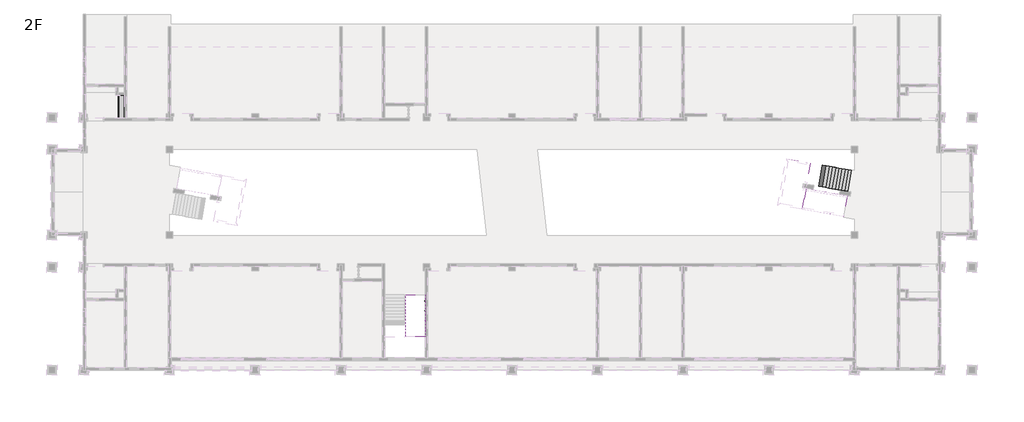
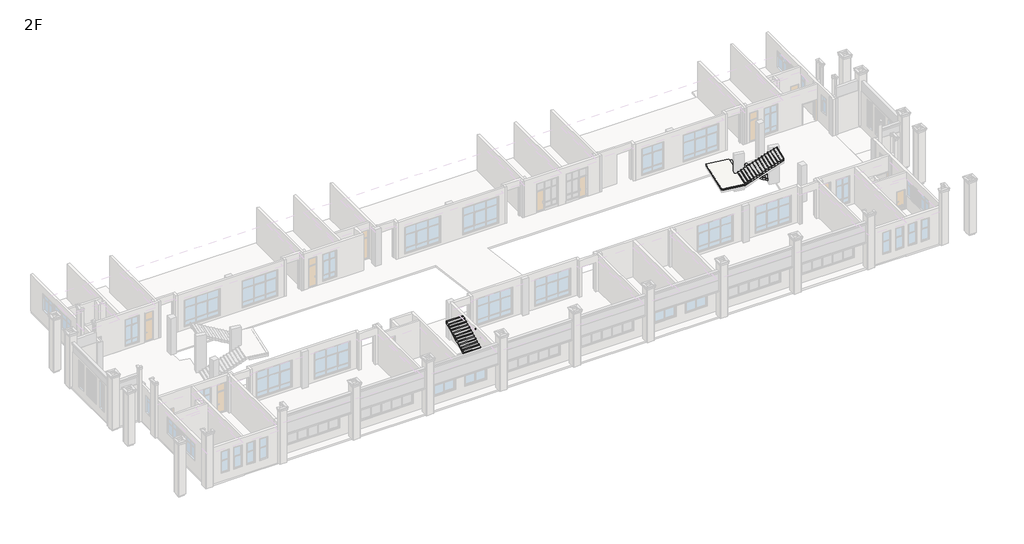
# One storey, part 12 of 16: 3 proxies, 3 stair flights, 1 flow terminal, 1 slab.
"""IFC4 building model written with IfcOpenShell, lengths in millimetres."""

from ifc_helpers import new_model, si_unit, frame, origin, place, context, project, spatial, polyline, outline, extrude, faceted_brep, transform, mapped, element, save
from components import building_element_proxy_cf76aa7a, flow_terminal_d0053564

model = new_model("IFC4")

# Units and contexts
model_context = context("Model", 3, world=origin())
ifc_project = project(units=[si_unit("LENGTHUNIT", "METRE", prefix="MILLI")], contexts=[model_context])

# Site, building, storey
site = spatial("IfcSite", under=ifc_project)
building = spatial("IfcBuilding", under=site)
storey = spatial("IfcBuildingStorey", under=building, Name="2F", Elevation=4200.0)

# Proxies
placement = place(None, origin())
building_element_proxy_shape = building_element_proxy_cf76aa7a(model_context)
element("IfcBuildingElementProxy", 1, Name="支座 - 金属 - 圆形 : 支座 - 金属 - 圆形", ObjectType="支座 - 金属 - 圆形 : 支座 - 金属 - 圆形", at=placement, inside=storey, context=model_context, shape_type="MappedRepresentation", body=[
    mapped(building_element_proxy_shape, transform((34845.0, 5543.0931494, 4541.3931073), x_axis=(0.0, -1.0, 0.0), y_axis=(1.0, 0.0, 0.0), z_axis=(0.0, 0.0, 1.0))),
])
element("IfcBuildingElementProxy", 2, Name="支座 - 金属 - 圆形 : 支座 - 金属 - 圆形", ObjectType="支座 - 金属 - 圆形 : 支座 - 金属 - 圆形", at=placement, inside=storey, context=model_context, shape_type="MappedRepresentation", body=[
    mapped(building_element_proxy_shape, transform((34845.0, 6437.5203404, 4988.6067028), x_axis=(0.0, -1.0, 0.0), y_axis=(1.0, 0.0, 0.0), z_axis=(0.0, 0.0, 1.0))),
])
element("IfcBuildingElementProxy", 3, Name="支座 - 金属 - 圆形 : 支座 - 金属 - 圆形", ObjectType="支座 - 金属 - 圆形 : 支座 - 金属 - 圆形", at=placement, inside=storey, context=model_context, shape_type="MappedRepresentation", body=[
    mapped(building_element_proxy_shape, transform((34845.0, 4648.6659584, 8294.1795118), x_axis=(0.0, -1.0, 0.0), y_axis=(1.0, 0.0, 0.0), z_axis=(0.0, 0.0, 1.0))),
])

# Flow terminal
flow_terminal_shape = flow_terminal_d0053564(model_context)
element("IfcFlowTerminal", 4, ObjectType="桌上式台盆_多个 : 标准", at=placement, inside=storey, context=model_context, shape_type="MappedRepresentation", body=[
    mapped(flow_terminal_shape, transform((6783.0000003, 24985.5853963, 4200.0), x_axis=(0.0, -1.0000000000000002, 0.0), y_axis=(1.0000000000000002, 0.0, 0.0), z_axis=(0.0, 0.0, 1.0))),
])

# Slab
element("IfcSlab", 5, ObjectType="120mm 厚度", at=placement, inside=storey, context=model_context, shape_type="SolidModel", body=[
    faceted_brep([(70534.303063, 17360.3965201, 6270.0), (70504.7588304, 17365.6059654, 6270.0), (70852.0551858, 19335.2214714, 6270.0), (70528.7150709, 19392.2350576, 6270.0), (68616.5415864, 19729.4028347, 6270.0), (67852.4896047, 15396.2487215, 6270.0), (70117.5474366, 14996.8579129, 6270.0), (70147.0916692, 14991.6484675, 6270.0), (70494.3880245, 16961.2639735, 6270.0), (70464.843792, 16966.4734189, 6270.0), (70534.303063, 17360.3965201, 6150.0), (70504.7588304, 17365.6059654, 6150.0), (70504.7588304, 17365.6059654, 6120.0), (70504.7588304, 17365.6059654, 5985.8359214), (70852.0551858, 19335.2214714, 5985.8359214), (70852.0551858, 19335.2214714, 6120.0), (70528.7150709, 19392.2350576, 6150.0), (68616.5415864, 19729.4028347, 6150.0), (67852.4896047, 15396.2487215, 6150.0), (70117.5474366, 14996.8579129, 6150.0), (70147.0916692, 14991.6484675, 6150.0), (70494.3880245, 16961.2639735, 6150.0), (70464.843792, 16966.4734189, 6150.0), (70181.4187156, 17422.6195516, 6150.0)], [[[0, 1, 2, 3, 4, 5, 6, 7, 8, 9]], [[1, 0, 10, 11]], [[2, 1, 11, 12, 13, 14, 15]], [[2, 15, 14, 16, 17, 4, 3]], [[5, 4, 17, 18]], [[6, 5, 18, 19]], [[7, 6, 19, 20]], [[8, 7, 20, 21]], [[9, 8, 21, 22]], [[0, 9, 22, 10]], [[16, 23, 11, 10, 22, 21, 20, 19, 18, 17]], [[23, 16, 14, 13]], [[11, 23, 13, 12]]]),
    extrude(outline(polyline([(70534.303063, 17360.3965201), (70464.843792, 16966.4734189), (70117.5474366, 14996.8579129), (67852.4896047, 15396.2487215), (68616.5415864, 19729.4028347), (70881.5994184, 19330.0120261), (70534.303063, 17360.3965201)])), frame((0.0, 0.0, 6270.0), z_axis=(0.0, 0.0, 1.0), x_axis=(1.0, 0.0, 0.0)), (0.0, 0.0, 1.0), 30.0),
])

# Stair flights
element("IfcStairFlight", 6, ObjectType="120mm 结构深度", at=placement, inside=storey, context=model_context, shape_type="SolidModel", body=[
    faceted_brep([(33050.0, 3130.0, 6420.0), (34900.0, 3130.0, 6420.0), (34900.0, 3158.3281573, 6420.0), (34900.0, 3430.0, 6420.0), (33050.0, 3430.0, 6420.0), (33050.0, 3158.3281573, 6420.0), (33050.0, 3430.0, 6285.8359214), (33050.0, 3158.3281573, 6150.0), (33050.0, 3130.0, 6150.0), (33050.0, 3130.0, 6270.0), (34900.0, 3130.0, 6150.0), (34900.0, 3130.0, 6270.0), (34900.0, 3158.3281573, 6150.0), (34900.0, 3430.0, 6285.8359214), (33050.0, 3730.0, 6570.0), (33050.0, 3430.0, 6570.0), (34900.0, 3430.0, 6570.0), (34900.0, 3730.0, 6570.0), (33050.0, 3730.0, 6435.8359214), (34900.0, 3730.0, 6435.8359214), (33050.0, 4030.0, 6720.0), (33050.0, 3730.0, 6720.0), (34900.0, 3730.0, 6720.0), (34900.0, 4030.0, 6720.0), (33050.0, 4030.0, 6585.8359214), (34900.0, 4030.0, 6585.8359214), (33050.0, 4330.0, 6870.0), (33050.0, 4030.0, 6870.0), (34900.0, 4030.0, 6870.0), (34900.0, 4330.0, 6870.0), (33050.0, 4330.0, 6735.8359214), (34900.0, 4330.0, 6735.8359214), (33050.0, 4630.0, 7020.0), (33050.0, 4330.0, 7020.0), (34900.0, 4330.0, 7020.0), (34900.0, 4630.0, 7020.0), (33050.0, 4630.0, 6885.8359214), (34900.0, 4630.0, 6885.8359214), (33050.0, 4930.0, 7170.0), (33050.0, 4630.0, 7170.0), (34900.0, 4630.0, 7170.0), (34900.0, 4930.0, 7170.0), (33050.0, 4930.0, 7035.8359214), (34900.0, 4930.0, 7035.8359214), (33050.0, 5230.0, 7320.0), (33050.0, 4930.0, 7320.0), (34900.0, 4930.0, 7320.0), (34900.0, 5230.0, 7320.0), (33050.0, 5230.0, 7185.8359214), (34900.0, 5230.0, 7185.8359214), (33050.0, 5530.0, 7470.0), (33050.0, 5230.0, 7470.0), (34900.0, 5230.0, 7470.0), (34900.0, 5530.0, 7470.0), (33050.0, 5530.0, 7335.8359214), (34900.0, 5530.0, 7335.8359214), (33050.0, 5830.0, 7620.0), (33050.0, 5530.0, 7620.0), (34900.0, 5530.0, 7620.0), (34900.0, 5830.0, 7620.0), (33050.0, 5830.0, 7485.8359214), (34900.0, 5830.0, 7485.8359214), (33050.0, 6130.0, 7770.0), (33050.0, 5830.0, 7770.0), (34900.0, 5830.0, 7770.0), (34900.0, 6130.0, 7770.0), (33050.0, 6130.0, 7635.8359214), (34900.0, 6130.0, 7635.8359214), (33050.0, 6430.0, 7920.0), (33050.0, 6130.0, 7920.0), (34900.0, 6130.0, 7920.0), (34900.0, 6430.0, 7920.0), (33050.0, 6430.0, 7785.8359214), (34900.0, 6430.0, 7785.8359214), (33050.0, 6730.0, 8070.0), (33050.0, 6430.0, 8070.0), (34900.0, 6430.0, 8070.0), (34900.0, 6730.0, 8070.0), (33050.0, 6730.0, 7935.8359214), (34900.0, 6730.0, 7935.8359214), (33050.0, 7030.0, 8220.0), (33050.0, 6730.0, 8220.0), (34900.0, 6730.0, 8220.0), (34900.0, 7030.0, 8220.0), (33050.0, 7030.0, 8085.8359214), (34900.0, 7030.0, 8085.8359214)], [[[0, 1, 2, 3, 4, 5]], [[4, 6, 7, 8, 9, 0, 5]], [[1, 0, 9, 8, 10, 11]], [[1, 11, 10, 12, 13, 3, 2]], [[14, 15, 16, 17]], [[15, 14, 18, 6, 4]], [[16, 15, 4, 3]], [[17, 16, 3, 13, 19]], [[20, 21, 22, 23]], [[21, 20, 24, 18, 14]], [[22, 21, 14, 17]], [[23, 22, 17, 19, 25]], [[26, 27, 28, 29]], [[27, 26, 30, 24, 20]], [[28, 27, 20, 23]], [[29, 28, 23, 25, 31]], [[32, 33, 34, 35]], [[33, 32, 36, 30, 26]], [[34, 33, 26, 29]], [[35, 34, 29, 31, 37]], [[38, 39, 40, 41]], [[39, 38, 42, 36, 32]], [[40, 39, 32, 35]], [[41, 40, 35, 37, 43]], [[44, 45, 46, 47]], [[45, 44, 48, 42, 38]], [[46, 45, 38, 41]], [[47, 46, 41, 43, 49]], [[50, 51, 52, 53]], [[51, 50, 54, 48, 44]], [[52, 51, 44, 47]], [[53, 52, 47, 49, 55]], [[56, 57, 58, 59]], [[57, 56, 60, 54, 50]], [[58, 57, 50, 53]], [[59, 58, 53, 55, 61]], [[62, 63, 64, 65]], [[63, 62, 66, 60, 56]], [[64, 63, 56, 59]], [[65, 64, 59, 61, 67]], [[68, 69, 70, 71]], [[69, 68, 72, 66, 62]], [[70, 69, 62, 65]], [[71, 70, 65, 67, 73]], [[74, 75, 76, 77]], [[75, 74, 78, 72, 68]], [[76, 75, 68, 71]], [[77, 76, 71, 73, 79]], [[80, 81, 82, 83]], [[81, 80, 84, 78, 74]], [[82, 81, 74, 77]], [[83, 82, 77, 79, 85]], [[80, 83, 85, 84]], [[12, 7, 6, 18, 24, 30, 36, 42, 48, 54, 60, 66, 72, 78, 84, 85, 79, 73, 67, 61, 55, 49, 43, 37, 31, 25, 19, 13]], [[7, 12, 10, 8]]]),
    extrude(outline(polyline([(34900.0, 3130.0), (34900.0, 3100.0), (33050.0, 3100.0), (33050.0, 3130.0), (34900.0, 3130.0)])), frame((0.0, 0.0, 6270.0), z_axis=(0.0, 0.0, 1.0), x_axis=(1.0, 0.0, 0.0)), (0.0, 0.0, 1.0), 150.0),
    extrude(outline(polyline([(33050.0, 3400.0), (34900.0, 3400.0), (34900.0, 3100.0), (33050.0, 3100.0), (33050.0, 3400.0)])), frame((0.0, 0.0, 6420.0), z_axis=(0.0, 0.0, 1.0), x_axis=(1.0, 0.0, 0.0)), (0.0, 0.0, 1.0), 30.0),
    extrude(outline(polyline([(34900.0, 3430.0), (34900.0, 3400.0), (33050.0, 3400.0), (33050.0, 3430.0), (34900.0, 3430.0)])), frame((0.0, 0.0, 6420.0), z_axis=(0.0, 0.0, 1.0), x_axis=(1.0, 0.0, 0.0)), (0.0, 0.0, 1.0), 150.0),
    extrude(outline(polyline([(33050.0, 3700.0), (34900.0, 3700.0), (34900.0, 3400.0), (33050.0, 3400.0), (33050.0, 3700.0)])), frame((0.0, 0.0, 6570.0), z_axis=(0.0, 0.0, 1.0), x_axis=(1.0, 0.0, 0.0)), (0.0, 0.0, 1.0), 30.0),
    extrude(outline(polyline([(34900.0, 3730.0), (34900.0, 3700.0), (33050.0, 3700.0), (33050.0, 3730.0), (34900.0, 3730.0)])), frame((0.0, 0.0, 6570.0), z_axis=(0.0, 0.0, 1.0), x_axis=(1.0, 0.0, 0.0)), (0.0, 0.0, 1.0), 150.0),
    extrude(outline(polyline([(33050.0, 4000.0), (34900.0, 4000.0), (34900.0, 3700.0), (33050.0, 3700.0), (33050.0, 4000.0)])), frame((0.0, 0.0, 6720.0), z_axis=(0.0, 0.0, 1.0), x_axis=(1.0, 0.0, 0.0)), (0.0, 0.0, 1.0), 30.0),
    extrude(outline(polyline([(34900.0, 4030.0), (34900.0, 4000.0), (33050.0, 4000.0), (33050.0, 4030.0), (34900.0, 4030.0)])), frame((0.0, 0.0, 6720.0), z_axis=(0.0, 0.0, 1.0), x_axis=(1.0, 0.0, 0.0)), (0.0, 0.0, 1.0), 150.0),
    extrude(outline(polyline([(33050.0, 4300.0), (34900.0, 4300.0), (34900.0, 4000.0), (33050.0, 4000.0), (33050.0, 4300.0)])), frame((0.0, 0.0, 6870.0), z_axis=(0.0, 0.0, 1.0), x_axis=(1.0, 0.0, 0.0)), (0.0, 0.0, 1.0), 30.0),
    extrude(outline(polyline([(34900.0, 4330.0), (34900.0, 4300.0), (33050.0, 4300.0), (33050.0, 4330.0), (34900.0, 4330.0)])), frame((0.0, 0.0, 6870.0), z_axis=(0.0, 0.0, 1.0), x_axis=(1.0, 0.0, 0.0)), (0.0, 0.0, 1.0), 150.0),
    extrude(outline(polyline([(33050.0, 4600.0), (34900.0, 4600.0), (34900.0, 4300.0), (33050.0, 4300.0), (33050.0, 4600.0)])), frame((0.0, 0.0, 7020.0), z_axis=(0.0, 0.0, 1.0), x_axis=(1.0, 0.0, 0.0)), (0.0, 0.0, 1.0), 30.0),
    extrude(outline(polyline([(34900.0, 4630.0), (34900.0, 4600.0), (33050.0, 4600.0), (33050.0, 4630.0), (34900.0, 4630.0)])), frame((0.0, 0.0, 7020.0), z_axis=(0.0, 0.0, 1.0), x_axis=(1.0, 0.0, 0.0)), (0.0, 0.0, 1.0), 150.0),
    extrude(outline(polyline([(33050.0, 4900.0), (34900.0, 4900.0), (34900.0, 4600.0), (33050.0, 4600.0), (33050.0, 4900.0)])), frame((0.0, 0.0, 7170.0), z_axis=(0.0, 0.0, 1.0), x_axis=(1.0, 0.0, 0.0)), (0.0, 0.0, 1.0), 30.0),
    extrude(outline(polyline([(34900.0, 4930.0), (34900.0, 4900.0), (33050.0, 4900.0), (33050.0, 4930.0), (34900.0, 4930.0)])), frame((0.0, 0.0, 7170.0), z_axis=(0.0, 0.0, 1.0), x_axis=(1.0, 0.0, 0.0)), (0.0, 0.0, 1.0), 150.0),
    extrude(outline(polyline([(33050.0, 5200.0), (34900.0, 5200.0), (34900.0, 4900.0), (33050.0, 4900.0), (33050.0, 5200.0)])), frame((0.0, 0.0, 7320.0), z_axis=(0.0, 0.0, 1.0), x_axis=(1.0, 0.0, 0.0)), (0.0, 0.0, 1.0), 30.0),
    extrude(outline(polyline([(34900.0, 5230.0), (34900.0, 5200.0), (33050.0, 5200.0), (33050.0, 5230.0), (34900.0, 5230.0)])), frame((0.0, 0.0, 7320.0), z_axis=(0.0, 0.0, 1.0), x_axis=(1.0, 0.0, 0.0)), (0.0, 0.0, 1.0), 150.0),
    extrude(outline(polyline([(33050.0, 5500.0), (34900.0, 5500.0), (34900.0, 5200.0), (33050.0, 5200.0), (33050.0, 5500.0)])), frame((0.0, 0.0, 7470.0), z_axis=(0.0, 0.0, 1.0), x_axis=(1.0, 0.0, 0.0)), (0.0, 0.0, 1.0), 30.0),
    extrude(outline(polyline([(34900.0, 5530.0), (34900.0, 5500.0), (33050.0, 5500.0), (33050.0, 5530.0), (34900.0, 5530.0)])), frame((0.0, 0.0, 7470.0), z_axis=(0.0, 0.0, 1.0), x_axis=(1.0, 0.0, 0.0)), (0.0, 0.0, 1.0), 150.0),
    extrude(outline(polyline([(33050.0, 5800.0), (34900.0, 5800.0), (34900.0, 5500.0), (33050.0, 5500.0), (33050.0, 5800.0)])), frame((0.0, 0.0, 7620.0), z_axis=(0.0, 0.0, 1.0), x_axis=(1.0, 0.0, 0.0)), (0.0, 0.0, 1.0), 30.0),
    extrude(outline(polyline([(34900.0, 5830.0), (34900.0, 5800.0), (33050.0, 5800.0), (33050.0, 5830.0), (34900.0, 5830.0)])), frame((0.0, 0.0, 7620.0), z_axis=(0.0, 0.0, 1.0), x_axis=(1.0, 0.0, 0.0)), (0.0, 0.0, 1.0), 150.0),
    extrude(outline(polyline([(33050.0, 6100.0), (34900.0, 6100.0), (34900.0, 5800.0), (33050.0, 5800.0), (33050.0, 6100.0)])), frame((0.0, 0.0, 7770.0), z_axis=(0.0, 0.0, 1.0), x_axis=(1.0, 0.0, 0.0)), (0.0, 0.0, 1.0), 30.0),
    extrude(outline(polyline([(34900.0, 6130.0), (34900.0, 6100.0), (33050.0, 6100.0), (33050.0, 6130.0), (34900.0, 6130.0)])), frame((0.0, 0.0, 7770.0), z_axis=(0.0, 0.0, 1.0), x_axis=(1.0, 0.0, 0.0)), (0.0, 0.0, 1.0), 150.0),
    extrude(outline(polyline([(33050.0, 6400.0), (34900.0, 6400.0), (34900.0, 6100.0), (33050.0, 6100.0), (33050.0, 6400.0)])), frame((0.0, 0.0, 7920.0), z_axis=(0.0, 0.0, 1.0), x_axis=(1.0, 0.0, 0.0)), (0.0, 0.0, 1.0), 30.0),
    extrude(outline(polyline([(34900.0, 6430.0), (34900.0, 6400.0), (33050.0, 6400.0), (33050.0, 6430.0), (34900.0, 6430.0)])), frame((0.0, 0.0, 7920.0), z_axis=(0.0, 0.0, 1.0), x_axis=(1.0, 0.0, 0.0)), (0.0, 0.0, 1.0), 150.0),
    extrude(outline(polyline([(33050.0, 6700.0), (34900.0, 6700.0), (34900.0, 6400.0), (33050.0, 6400.0), (33050.0, 6700.0)])), frame((0.0, 0.0, 8070.0), z_axis=(0.0, 0.0, 1.0), x_axis=(1.0, 0.0, 0.0)), (0.0, 0.0, 1.0), 30.0),
    extrude(outline(polyline([(34900.0, 6730.0), (34900.0, 6700.0), (33050.0, 6700.0), (33050.0, 6730.0), (34900.0, 6730.0)])), frame((0.0, 0.0, 8070.0), z_axis=(0.0, 0.0, 1.0), x_axis=(1.0, 0.0, 0.0)), (0.0, 0.0, 1.0), 150.0),
    extrude(outline(polyline([(34900.0, 7030.0), (34900.0, 7000.0), (33050.0, 7000.0), (33050.0, 7030.0), (34900.0, 7030.0)])), frame((0.0, 0.0, 8220.0), z_axis=(0.0, 0.0, 1.0), x_axis=(1.0, 0.0, 0.0)), (0.0, 0.0, 1.0), 150.0),
    extrude(outline(polyline([(33050.0, 7000.0), (34900.0, 7000.0), (34900.0, 6700.0), (33050.0, 6700.0), (33050.0, 7000.0)])), frame((0.0, 0.0, 8220.0), z_axis=(0.0, 0.0, 1.0), x_axis=(1.0, 0.0, 0.0)), (0.0, 0.0, 1.0), 30.0),
])
element("IfcStairFlight", 7, ObjectType="120mm 结构深度", at=placement, inside=storey, context=model_context, shape_type="SolidModel", body=[
    faceted_brep([(74050.0667413, 16740.4725258, 4320.0), (74345.5090672, 16688.3780725, 4320.0), (74692.8054225, 18657.9935785, 4320.0), (74397.3630966, 18710.0880318, 4320.0), (74050.0667413, 16740.4725258, 4200.0), (74345.5090672, 16688.3780725, 4200.0), (74692.8054225, 18657.9935785, 4200.0), (74397.3630966, 18710.0880318, 4200.0), (73754.6244154, 16792.5669791, 4470.0), (74050.0667413, 16740.4725258, 4470.0), (74397.3630966, 18710.0880318, 4470.0), (74101.9207707, 18762.1824851, 4470.0), (73754.6244154, 16792.5669791, 4335.8359214), (74022.1689523, 16745.3916587, 4200.0), (74369.4653077, 18715.0071647, 4200.0), (74101.9207707, 18762.1824851, 4335.8359214), (73459.1820895, 16844.6614324, 4620.0), (73754.6244154, 16792.5669791, 4620.0), (74101.9207707, 18762.1824851, 4620.0), (73806.4784448, 18814.2769384, 4620.0), (73459.1820895, 16844.6614324, 4485.8359214), (73806.4784448, 18814.2769384, 4485.8359214), (73163.7397636, 16896.7558857, 4770.0), (73459.1820895, 16844.6614324, 4770.0), (73806.4784448, 18814.2769384, 4770.0), (73511.0361189, 18866.3713917, 4770.0), (73163.7397636, 16896.7558857, 4635.8359214), (73511.0361189, 18866.3713917, 4635.8359214), (72868.2974377, 16948.850339, 4920.0), (73163.7397636, 16896.7558857, 4920.0), (73511.0361189, 18866.3713917, 4920.0), (73215.593793, 18918.465845, 4920.0), (72868.2974377, 16948.850339, 4785.8359214), (73215.593793, 18918.465845, 4785.8359214), (72572.8551118, 17000.9447923, 5070.0), (72868.2974377, 16948.850339, 5070.0), (73215.593793, 18918.465845, 5070.0), (72920.1514671, 18970.5602983, 5070.0), (72572.8551118, 17000.9447923, 4935.8359214), (72920.1514671, 18970.5602983, 4935.8359214), (72277.4127859, 17053.0392456, 5220.0), (72572.8551118, 17000.9447923, 5220.0), (72920.1514671, 18970.5602983, 5220.0), (72624.7091412, 19022.6547516, 5220.0), (72277.4127859, 17053.0392456, 5085.8359214), (72624.7091412, 19022.6547516, 5085.8359214), (71981.9704599, 17105.1336989, 5370.0), (72277.4127859, 17053.0392456, 5370.0), (72624.7091412, 19022.6547516, 5370.0), (72329.2668153, 19074.7492049, 5370.0), (71981.9704599, 17105.1336989, 5235.8359214), (72329.2668153, 19074.7492049, 5235.8359214), (71686.528134, 17157.2281522, 5520.0), (71981.9704599, 17105.1336989, 5520.0), (72329.2668153, 19074.7492049, 5520.0), (72033.8244894, 19126.8436582, 5520.0), (71686.528134, 17157.2281522, 5385.8359214), (72033.8244894, 19126.8436582, 5385.8359214), (71391.0858081, 17209.3226055, 5670.0), (71686.528134, 17157.2281522, 5670.0), (72033.8244894, 19126.8436582, 5670.0), (71738.3821635, 19178.9381115, 5670.0), (71391.0858081, 17209.3226055, 5535.8359214), (71738.3821635, 19178.9381115, 5535.8359214), (71095.6434822, 17261.4170588, 5820.0), (71391.0858081, 17209.3226055, 5820.0), (71738.3821635, 19178.9381115, 5820.0), (71442.9398376, 19231.0325648, 5820.0), (71095.6434822, 17261.4170588, 5685.8359214), (71442.9398376, 19231.0325648, 5685.8359214), (70800.2011563, 17313.5115121, 5970.0), (71095.6434822, 17261.4170588, 5970.0), (71442.9398376, 19231.0325648, 5970.0), (71147.4975117, 19283.1270181, 5970.0), (70800.2011563, 17313.5115121, 5835.8359214), (71147.4975117, 19283.1270181, 5835.8359214), (70504.7588304, 17365.6059654, 6120.0), (70800.2011563, 17313.5115121, 6120.0), (71147.4975117, 19283.1270181, 6120.0), (70881.5994184, 19330.0120261, 6120.0), (70852.0551858, 19335.2214714, 6120.0), (70504.7588304, 17365.6059654, 5985.8359214), (70881.5994184, 19330.0120261, 5970.8359214), (70852.0551858, 19335.2214714, 5985.8359214)], [[[0, 1, 2, 3]], [[1, 0, 4, 5]], [[2, 1, 5, 6]], [[3, 2, 6, 7]], [[8, 9, 10, 11]], [[4, 0, 9, 8, 12, 13]], [[0, 3, 10, 9]], [[3, 7, 14, 15, 11, 10]], [[16, 17, 18, 19]], [[17, 16, 20, 12, 8]], [[8, 11, 18, 17]], [[19, 18, 11, 15, 21]], [[22, 23, 24, 25]], [[23, 22, 26, 20, 16]], [[16, 19, 24, 23]], [[25, 24, 19, 21, 27]], [[28, 29, 30, 31]], [[29, 28, 32, 26, 22]], [[22, 25, 30, 29]], [[31, 30, 25, 27, 33]], [[34, 35, 36, 37]], [[35, 34, 38, 32, 28]], [[28, 31, 36, 35]], [[37, 36, 31, 33, 39]], [[40, 41, 42, 43]], [[41, 40, 44, 38, 34]], [[34, 37, 42, 41]], [[43, 42, 37, 39, 45]], [[46, 47, 48, 49]], [[47, 46, 50, 44, 40]], [[40, 43, 48, 47]], [[49, 48, 43, 45, 51]], [[52, 53, 54, 55]], [[53, 52, 56, 50, 46]], [[46, 49, 54, 53]], [[55, 54, 49, 51, 57]], [[58, 59, 60, 61]], [[59, 58, 62, 56, 52]], [[52, 55, 60, 59]], [[61, 60, 55, 57, 63]], [[64, 65, 66, 67]], [[65, 64, 68, 62, 58]], [[58, 61, 66, 65]], [[67, 66, 61, 63, 69]], [[70, 71, 72, 73]], [[71, 70, 74, 68, 64]], [[64, 67, 72, 71]], [[73, 72, 67, 69, 75]], [[76, 77, 78, 79, 80]], [[77, 76, 81, 74, 70]], [[70, 73, 78, 77]], [[78, 73, 75, 82, 83, 80, 79]], [[76, 80, 83, 81]], [[5, 4, 13, 14, 7, 6]], [[14, 13, 12, 20, 26, 32, 38, 44, 50, 56, 62, 68, 74, 81, 83, 82, 75, 69, 63, 57, 51, 45, 39, 33, 27, 21, 15]]]),
    extrude(outline(polyline([(74692.8054225, 18657.9935785), (74722.3496551, 18652.7841332), (74375.0532998, 16683.1686272), (74345.5090672, 16688.3780725), (74692.8054225, 18657.9935785)])), frame((0.0, 0.0, 4200.0), z_axis=(0.0, 0.0, 1.0), x_axis=(1.0, 0.0, 0.0)), (0.0, 0.0, 1.0), 120.0),
    extrude(outline(polyline([(74079.6109739, 16735.2630805), (74426.9073292, 18704.8785865), (74722.3496551, 18652.7841332), (74375.0532998, 16683.1686272), (74079.6109739, 16735.2630805)])), frame((0.0, 0.0, 4320.0), z_axis=(0.0, 0.0, 1.0), x_axis=(1.0, 0.0, 0.0)), (0.0, 0.0, 1.0), 30.0),
    extrude(outline(polyline([(74397.3630966, 18710.0880318), (74426.9073292, 18704.8785865), (74079.6109739, 16735.2630805), (74050.0667413, 16740.4725258), (74397.3630966, 18710.0880318)])), frame((0.0, 0.0, 4320.0), z_axis=(0.0, 0.0, 1.0), x_axis=(1.0, 0.0, 0.0)), (0.0, 0.0, 1.0), 150.0),
    extrude(outline(polyline([(73784.168648, 16787.3575338), (74131.4650033, 18756.9730398), (74426.9073292, 18704.8785865), (74079.6109739, 16735.2630805), (73784.168648, 16787.3575338)])), frame((0.0, 0.0, 4470.0), z_axis=(0.0, 0.0, 1.0), x_axis=(1.0, 0.0, 0.0)), (0.0, 0.0, 1.0), 30.0),
    extrude(outline(polyline([(74101.9207707, 18762.1824851), (74131.4650033, 18756.9730398), (73784.168648, 16787.3575338), (73754.6244154, 16792.5669791), (74101.9207707, 18762.1824851)])), frame((0.0, 0.0, 4470.0), z_axis=(0.0, 0.0, 1.0), x_axis=(1.0, 0.0, 0.0)), (0.0, 0.0, 1.0), 150.0),
    extrude(outline(polyline([(73488.7263221, 16839.4519871), (73836.0226774, 18809.0674931), (74131.4650033, 18756.9730398), (73784.168648, 16787.3575338), (73488.7263221, 16839.4519871)])), frame((0.0, 0.0, 4620.0), z_axis=(0.0, 0.0, 1.0), x_axis=(1.0, 0.0, 0.0)), (0.0, 0.0, 1.0), 30.0),
    extrude(outline(polyline([(73806.4784448, 18814.2769384), (73836.0226774, 18809.0674931), (73488.7263221, 16839.4519871), (73459.1820895, 16844.6614324), (73806.4784448, 18814.2769384)])), frame((0.0, 0.0, 4620.0), z_axis=(0.0, 0.0, 1.0), x_axis=(1.0, 0.0, 0.0)), (0.0, 0.0, 1.0), 150.0),
    extrude(outline(polyline([(73193.2839962, 16891.5464404), (73540.5803515, 18861.1619464), (73836.0226774, 18809.0674931), (73488.7263221, 16839.4519871), (73193.2839962, 16891.5464404)])), frame((0.0, 0.0, 4770.0), z_axis=(0.0, 0.0, 1.0), x_axis=(1.0, 0.0, 0.0)), (0.0, 0.0, 1.0), 30.0),
    extrude(outline(polyline([(73511.0361189, 18866.3713917), (73540.5803515, 18861.1619464), (73193.2839962, 16891.5464404), (73163.7397636, 16896.7558857), (73511.0361189, 18866.3713917)])), frame((0.0, 0.0, 4770.0), z_axis=(0.0, 0.0, 1.0), x_axis=(1.0, 0.0, 0.0)), (0.0, 0.0, 1.0), 150.0),
    extrude(outline(polyline([(72897.8416702, 16943.6408937), (73245.1380256, 18913.2563997), (73540.5803515, 18861.1619464), (73193.2839962, 16891.5464404), (72897.8416702, 16943.6408937)])), frame((0.0, 0.0, 4920.0), z_axis=(0.0, 0.0, 1.0), x_axis=(1.0, 0.0, 0.0)), (0.0, 0.0, 1.0), 30.0),
    extrude(outline(polyline([(73215.593793, 18918.465845), (73245.1380256, 18913.2563997), (72897.8416702, 16943.6408937), (72868.2974377, 16948.850339), (73215.593793, 18918.465845)])), frame((0.0, 0.0, 4920.0), z_axis=(0.0, 0.0, 1.0), x_axis=(1.0, 0.0, 0.0)), (0.0, 0.0, 1.0), 150.0),
    extrude(outline(polyline([(72602.3993443, 16995.735347), (72949.6956997, 18965.350853), (73245.1380256, 18913.2563997), (72897.8416702, 16943.6408937), (72602.3993443, 16995.735347)])), frame((0.0, 0.0, 5070.0), z_axis=(0.0, 0.0, 1.0), x_axis=(1.0, 0.0, 0.0)), (0.0, 0.0, 1.0), 30.0),
    extrude(outline(polyline([(72920.1514671, 18970.5602983), (72949.6956997, 18965.350853), (72602.3993443, 16995.735347), (72572.8551118, 17000.9447923), (72920.1514671, 18970.5602983)])), frame((0.0, 0.0, 5070.0), z_axis=(0.0, 0.0, 1.0), x_axis=(1.0, 0.0, 0.0)), (0.0, 0.0, 1.0), 150.0),
    extrude(outline(polyline([(72306.9570184, 17047.8298003), (72654.2533738, 19017.4453063), (72949.6956997, 18965.350853), (72602.3993443, 16995.735347), (72306.9570184, 17047.8298003)])), frame((0.0, 0.0, 5220.0), z_axis=(0.0, 0.0, 1.0), x_axis=(1.0, 0.0, 0.0)), (0.0, 0.0, 1.0), 30.0),
    extrude(outline(polyline([(72624.7091412, 19022.6547516), (72654.2533738, 19017.4453063), (72306.9570184, 17047.8298003), (72277.4127859, 17053.0392456), (72624.7091412, 19022.6547516)])), frame((0.0, 0.0, 5220.0), z_axis=(0.0, 0.0, 1.0), x_axis=(1.0, 0.0, 0.0)), (0.0, 0.0, 1.0), 150.0),
    extrude(outline(polyline([(72011.5146925, 17099.9242536), (72358.8110479, 19069.5397596), (72654.2533738, 19017.4453063), (72306.9570184, 17047.8298003), (72011.5146925, 17099.9242536)])), frame((0.0, 0.0, 5370.0), z_axis=(0.0, 0.0, 1.0), x_axis=(1.0, 0.0, 0.0)), (0.0, 0.0, 1.0), 30.0),
    extrude(outline(polyline([(72329.2668153, 19074.7492049), (72358.8110479, 19069.5397596), (72011.5146925, 17099.9242536), (71981.9704599, 17105.1336989), (72329.2668153, 19074.7492049)])), frame((0.0, 0.0, 5370.0), z_axis=(0.0, 0.0, 1.0), x_axis=(1.0, 0.0, 0.0)), (0.0, 0.0, 1.0), 150.0),
    extrude(outline(polyline([(71716.0723666, 17152.0187069), (72063.368722, 19121.6342129), (72358.8110479, 19069.5397596), (72011.5146925, 17099.9242536), (71716.0723666, 17152.0187069)])), frame((0.0, 0.0, 5520.0), z_axis=(0.0, 0.0, 1.0), x_axis=(1.0, 0.0, 0.0)), (0.0, 0.0, 1.0), 30.0),
    extrude(outline(polyline([(72033.8244894, 19126.8436582), (72063.368722, 19121.6342129), (71716.0723666, 17152.0187069), (71686.528134, 17157.2281522), (72033.8244894, 19126.8436582)])), frame((0.0, 0.0, 5520.0), z_axis=(0.0, 0.0, 1.0), x_axis=(1.0, 0.0, 0.0)), (0.0, 0.0, 1.0), 150.0),
    extrude(outline(polyline([(71420.6300407, 17204.1131602), (71767.9263961, 19173.7286662), (72063.368722, 19121.6342129), (71716.0723666, 17152.0187069), (71420.6300407, 17204.1131602)])), frame((0.0, 0.0, 5670.0), z_axis=(0.0, 0.0, 1.0), x_axis=(1.0, 0.0, 0.0)), (0.0, 0.0, 1.0), 30.0),
    extrude(outline(polyline([(71738.3821635, 19178.9381115), (71767.9263961, 19173.7286662), (71420.6300407, 17204.1131602), (71391.0858081, 17209.3226055), (71738.3821635, 19178.9381115)])), frame((0.0, 0.0, 5670.0), z_axis=(0.0, 0.0, 1.0), x_axis=(1.0, 0.0, 0.0)), (0.0, 0.0, 1.0), 150.0),
    extrude(outline(polyline([(71125.1877148, 17256.2076135), (71472.4840702, 19225.8231195), (71767.9263961, 19173.7286662), (71420.6300407, 17204.1131602), (71125.1877148, 17256.2076135)])), frame((0.0, 0.0, 5820.0), z_axis=(0.0, 0.0, 1.0), x_axis=(1.0, 0.0, 0.0)), (0.0, 0.0, 1.0), 30.0),
    extrude(outline(polyline([(71442.9398376, 19231.0325648), (71472.4840702, 19225.8231195), (71125.1877148, 17256.2076135), (71095.6434822, 17261.4170588), (71442.9398376, 19231.0325648)])), frame((0.0, 0.0, 5820.0), z_axis=(0.0, 0.0, 1.0), x_axis=(1.0, 0.0, 0.0)), (0.0, 0.0, 1.0), 150.0),
    extrude(outline(polyline([(70829.7453889, 17308.3020668), (71177.0417443, 19277.9175728), (71472.4840702, 19225.8231195), (71125.1877148, 17256.2076135), (70829.7453889, 17308.3020668)])), frame((0.0, 0.0, 5970.0), z_axis=(0.0, 0.0, 1.0), x_axis=(1.0, 0.0, 0.0)), (0.0, 0.0, 1.0), 30.0),
    extrude(outline(polyline([(71147.4975117, 19283.1270181), (71177.0417443, 19277.9175728), (70829.7453889, 17308.3020668), (70800.2011563, 17313.5115121), (71147.4975117, 19283.1270181)])), frame((0.0, 0.0, 5970.0), z_axis=(0.0, 0.0, 1.0), x_axis=(1.0, 0.0, 0.0)), (0.0, 0.0, 1.0), 150.0),
    extrude(outline(polyline([(70852.0551858, 19335.2214714), (70881.5994184, 19330.0120261), (70534.303063, 17360.3965201), (70504.7588304, 17365.6059654), (70852.0551858, 19335.2214714)])), frame((0.0, 0.0, 6120.0), z_axis=(0.0, 0.0, 1.0), x_axis=(1.0, 0.0, 0.0)), (0.0, 0.0, 1.0), 150.0),
    extrude(outline(polyline([(70534.303063, 17360.3965201), (70881.5994184, 19330.0120261), (71177.0417443, 19277.9175728), (70829.7453889, 17308.3020668), (70534.303063, 17360.3965201)])), frame((0.0, 0.0, 6120.0), z_axis=(0.0, 0.0, 1.0), x_axis=(1.0, 0.0, 0.0)), (0.0, 0.0, 1.0), 30.0),
])
element("IfcStairFlight", 8, ObjectType="120mm 结构深度", at=placement, inside=storey, context=model_context, shape_type="SolidModel", body=[
    faceted_brep([(70494.3880245, 16961.2639735, 6420.0), (70147.0916692, 14991.6484675, 6420.0), (70174.9894581, 14986.7293346, 6420.0), (70442.5339951, 14939.5540142, 6420.0), (70789.8303504, 16909.1695202, 6420.0), (70522.2858135, 16956.3448407, 6420.0), (70789.8303504, 16909.1695202, 6285.8359214), (70522.2858135, 16956.3448407, 6150.0), (70494.3880245, 16961.2639735, 6150.0), (70494.3880245, 16961.2639735, 6270.0), (70147.0916692, 14991.6484675, 6150.0), (70147.0916692, 14991.6484675, 6270.0), (70174.9894581, 14986.7293346, 6150.0), (70442.5339951, 14939.5540142, 6285.8359214), (71085.2726763, 16857.0750669, 6570.0), (70789.8303504, 16909.1695202, 6570.0), (70442.5339951, 14939.5540142, 6570.0), (70737.976321, 14887.4595609, 6570.0), (71085.2726763, 16857.0750669, 6435.8359214), (70737.976321, 14887.4595609, 6435.8359214), (71380.7150023, 16804.9806136, 6720.0), (71085.2726763, 16857.0750669, 6720.0), (70737.976321, 14887.4595609, 6720.0), (71033.4186469, 14835.3651076, 6720.0), (71380.7150023, 16804.9806136, 6585.8359214), (71033.4186469, 14835.3651076, 6585.8359214), (71676.1573282, 16752.8861603, 6870.0), (71380.7150023, 16804.9806136, 6870.0), (71033.4186469, 14835.3651076, 6870.0), (71328.8609728, 14783.2706543, 6870.0), (71676.1573282, 16752.8861603, 6735.8359214), (71328.8609728, 14783.2706543, 6735.8359214), (71971.5996541, 16700.791707, 7020.0), (71676.1573282, 16752.8861603, 7020.0), (71328.8609728, 14783.2706543, 7020.0), (71624.3032987, 14731.176201, 7020.0), (71971.5996541, 16700.791707, 6885.8359214), (71624.3032987, 14731.176201, 6885.8359214), (72267.04198, 16648.6972537, 7170.0), (71971.5996541, 16700.791707, 7170.0), (71624.3032987, 14731.176201, 7170.0), (71919.7456246, 14679.0817477, 7170.0), (72267.04198, 16648.6972537, 7035.8359214), (71919.7456246, 14679.0817477, 7035.8359214), (72562.4843059, 16596.6028004, 7320.0), (72267.04198, 16648.6972537, 7320.0), (71919.7456246, 14679.0817477, 7320.0), (72215.1879505, 14626.9872944, 7320.0), (72562.4843059, 16596.6028004, 7185.8359214), (72215.1879505, 14626.9872944, 7185.8359214), (72857.9266318, 16544.5083471, 7470.0), (72562.4843059, 16596.6028004, 7470.0), (72215.1879505, 14626.9872944, 7470.0), (72510.6302764, 14574.8928411, 7470.0), (72857.9266318, 16544.5083471, 7335.8359214), (72510.6302764, 14574.8928411, 7335.8359214), (73153.3689577, 16492.4138938, 7620.0), (72857.9266318, 16544.5083471, 7620.0), (72510.6302764, 14574.8928411, 7620.0), (72806.0726023, 14522.7983878, 7620.0), (73153.3689577, 16492.4138938, 7485.8359214), (72806.0726023, 14522.7983878, 7485.8359214), (73448.8112836, 16440.3194405, 7770.0), (73153.3689577, 16492.4138938, 7770.0), (72806.0726023, 14522.7983878, 7770.0), (73101.5149282, 14470.7039345, 7770.0), (73448.8112836, 16440.3194405, 7635.8359214), (73101.5149282, 14470.7039345, 7635.8359214), (73744.2536095, 16388.2249872, 7920.0), (73448.8112836, 16440.3194405, 7920.0), (73101.5149282, 14470.7039345, 7920.0), (73396.9572541, 14418.6094812, 7920.0), (73744.2536095, 16388.2249872, 7785.8359214), (73396.9572541, 14418.6094812, 7785.8359214), (74039.6959354, 16336.1305339, 8070.0), (73744.2536095, 16388.2249872, 8070.0), (73396.9572541, 14418.6094812, 8070.0), (73692.3995801, 14366.5150279, 8070.0), (74039.6959354, 16336.1305339, 7935.8359214), (73692.3995801, 14366.5150279, 7935.8359214), (74335.1382613, 16284.0360806, 8220.0), (74039.6959354, 16336.1305339, 8220.0), (73692.3995801, 14366.5150279, 8220.0), (73987.841906, 14314.4205746, 8220.0), (74335.1382613, 16284.0360806, 8085.8359214), (73987.841906, 14314.4205746, 8085.8359214)], [[[0, 1, 2, 3, 4, 5]], [[4, 6, 7, 8, 9, 0, 5]], [[1, 0, 9, 8, 10, 11]], [[1, 11, 10, 12, 13, 3, 2]], [[14, 15, 16, 17]], [[15, 14, 18, 6, 4]], [[16, 15, 4, 3]], [[17, 16, 3, 13, 19]], [[20, 21, 22, 23]], [[21, 20, 24, 18, 14]], [[22, 21, 14, 17]], [[23, 22, 17, 19, 25]], [[26, 27, 28, 29]], [[27, 26, 30, 24, 20]], [[28, 27, 20, 23]], [[29, 28, 23, 25, 31]], [[32, 33, 34, 35]], [[33, 32, 36, 30, 26]], [[34, 33, 26, 29]], [[35, 34, 29, 31, 37]], [[38, 39, 40, 41]], [[39, 38, 42, 36, 32]], [[40, 39, 32, 35]], [[41, 40, 35, 37, 43]], [[44, 45, 46, 47]], [[45, 44, 48, 42, 38]], [[46, 45, 38, 41]], [[47, 46, 41, 43, 49]], [[50, 51, 52, 53]], [[51, 50, 54, 48, 44]], [[52, 51, 44, 47]], [[53, 52, 47, 49, 55]], [[56, 57, 58, 59]], [[57, 56, 60, 54, 50]], [[58, 57, 50, 53]], [[59, 58, 53, 55, 61]], [[62, 63, 64, 65]], [[63, 62, 66, 60, 56]], [[64, 63, 56, 59]], [[65, 64, 59, 61, 67]], [[68, 69, 70, 71]], [[69, 68, 72, 66, 62]], [[70, 69, 62, 65]], [[71, 70, 65, 67, 73]], [[74, 75, 76, 77]], [[75, 74, 78, 72, 68]], [[76, 75, 68, 71]], [[77, 76, 71, 73, 79]], [[80, 81, 82, 83]], [[81, 80, 84, 78, 74]], [[82, 81, 74, 77]], [[83, 82, 77, 79, 85]], [[80, 83, 85, 84]], [[12, 7, 6, 18, 24, 30, 36, 42, 48, 54, 60, 66, 72, 78, 84, 85, 79, 73, 67, 61, 55, 49, 43, 37, 31, 25, 19, 13]], [[7, 12, 10, 8]]]),
    extrude(outline(polyline([(70147.0916692, 14991.6484675), (70117.5474366, 14996.8579129), (70464.843792, 16966.4734189), (70494.3880245, 16961.2639735), (70147.0916692, 14991.6484675)])), frame((0.0, 0.0, 6270.0), z_axis=(0.0, 0.0, 1.0), x_axis=(1.0, 0.0, 0.0)), (0.0, 0.0, 1.0), 150.0),
    extrude(outline(polyline([(70760.2861179, 16914.3789656), (70412.9897625, 14944.7634596), (70117.5474366, 14996.8579129), (70464.843792, 16966.4734189), (70760.2861179, 16914.3789656)])), frame((0.0, 0.0, 6420.0), z_axis=(0.0, 0.0, 1.0), x_axis=(1.0, 0.0, 0.0)), (0.0, 0.0, 1.0), 30.0),
    extrude(outline(polyline([(70442.5339951, 14939.5540142), (70412.9897625, 14944.7634596), (70760.2861179, 16914.3789656), (70789.8303504, 16909.1695202), (70442.5339951, 14939.5540142)])), frame((0.0, 0.0, 6420.0), z_axis=(0.0, 0.0, 1.0), x_axis=(1.0, 0.0, 0.0)), (0.0, 0.0, 1.0), 150.0),
    extrude(outline(polyline([(71055.7284438, 16862.2845123), (70708.4320884, 14892.6690063), (70412.9897625, 14944.7634596), (70760.2861179, 16914.3789656), (71055.7284438, 16862.2845123)])), frame((0.0, 0.0, 6570.0), z_axis=(0.0, 0.0, 1.0), x_axis=(1.0, 0.0, 0.0)), (0.0, 0.0, 1.0), 30.0),
    extrude(outline(polyline([(70737.976321, 14887.4595609), (70708.4320884, 14892.6690063), (71055.7284438, 16862.2845123), (71085.2726763, 16857.0750669), (70737.976321, 14887.4595609)])), frame((0.0, 0.0, 6570.0), z_axis=(0.0, 0.0, 1.0), x_axis=(1.0, 0.0, 0.0)), (0.0, 0.0, 1.0), 150.0),
    extrude(outline(polyline([(71351.1707697, 16810.190059), (71003.8744143, 14840.574553), (70708.4320884, 14892.6690063), (71055.7284438, 16862.2845123), (71351.1707697, 16810.190059)])), frame((0.0, 0.0, 6720.0), z_axis=(0.0, 0.0, 1.0), x_axis=(1.0, 0.0, 0.0)), (0.0, 0.0, 1.0), 30.0),
    extrude(outline(polyline([(71033.4186469, 14835.3651076), (71003.8744143, 14840.574553), (71351.1707697, 16810.190059), (71380.7150023, 16804.9806136), (71033.4186469, 14835.3651076)])), frame((0.0, 0.0, 6720.0), z_axis=(0.0, 0.0, 1.0), x_axis=(1.0, 0.0, 0.0)), (0.0, 0.0, 1.0), 150.0),
    extrude(outline(polyline([(71646.6130956, 16758.0956057), (71299.3167402, 14788.4800997), (71003.8744143, 14840.574553), (71351.1707697, 16810.190059), (71646.6130956, 16758.0956057)])), frame((0.0, 0.0, 6870.0), z_axis=(0.0, 0.0, 1.0), x_axis=(1.0, 0.0, 0.0)), (0.0, 0.0, 1.0), 30.0),
    extrude(outline(polyline([(71328.8609728, 14783.2706543), (71299.3167402, 14788.4800997), (71646.6130956, 16758.0956057), (71676.1573282, 16752.8861603), (71328.8609728, 14783.2706543)])), frame((0.0, 0.0, 6870.0), z_axis=(0.0, 0.0, 1.0), x_axis=(1.0, 0.0, 0.0)), (0.0, 0.0, 1.0), 150.0),
    extrude(outline(polyline([(71942.0554215, 16706.0011524), (71594.7590661, 14736.3856464), (71299.3167402, 14788.4800997), (71646.6130956, 16758.0956057), (71942.0554215, 16706.0011524)])), frame((0.0, 0.0, 7020.0), z_axis=(0.0, 0.0, 1.0), x_axis=(1.0, 0.0, 0.0)), (0.0, 0.0, 1.0), 30.0),
    extrude(outline(polyline([(71624.3032987, 14731.176201), (71594.7590661, 14736.3856464), (71942.0554215, 16706.0011524), (71971.5996541, 16700.791707), (71624.3032987, 14731.176201)])), frame((0.0, 0.0, 7020.0), z_axis=(0.0, 0.0, 1.0), x_axis=(1.0, 0.0, 0.0)), (0.0, 0.0, 1.0), 150.0),
    extrude(outline(polyline([(72237.4977474, 16653.9066991), (71890.201392, 14684.2911931), (71594.7590661, 14736.3856464), (71942.0554215, 16706.0011524), (72237.4977474, 16653.9066991)])), frame((0.0, 0.0, 7170.0), z_axis=(0.0, 0.0, 1.0), x_axis=(1.0, 0.0, 0.0)), (0.0, 0.0, 1.0), 30.0),
    extrude(outline(polyline([(71919.7456246, 14679.0817477), (71890.201392, 14684.2911931), (72237.4977474, 16653.9066991), (72267.04198, 16648.6972537), (71919.7456246, 14679.0817477)])), frame((0.0, 0.0, 7170.0), z_axis=(0.0, 0.0, 1.0), x_axis=(1.0, 0.0, 0.0)), (0.0, 0.0, 1.0), 150.0),
    extrude(outline(polyline([(72532.9400733, 16601.8122458), (72185.6437179, 14632.1967398), (71890.201392, 14684.2911931), (72237.4977474, 16653.9066991), (72532.9400733, 16601.8122458)])), frame((0.0, 0.0, 7320.0), z_axis=(0.0, 0.0, 1.0), x_axis=(1.0, 0.0, 0.0)), (0.0, 0.0, 1.0), 30.0),
    extrude(outline(polyline([(72215.1879505, 14626.9872944), (72185.6437179, 14632.1967398), (72532.9400733, 16601.8122458), (72562.4843059, 16596.6028004), (72215.1879505, 14626.9872944)])), frame((0.0, 0.0, 7320.0), z_axis=(0.0, 0.0, 1.0), x_axis=(1.0, 0.0, 0.0)), (0.0, 0.0, 1.0), 150.0),
    extrude(outline(polyline([(72828.3823992, 16549.7177925), (72481.0860438, 14580.1022865), (72185.6437179, 14632.1967398), (72532.9400733, 16601.8122458), (72828.3823992, 16549.7177925)])), frame((0.0, 0.0, 7470.0), z_axis=(0.0, 0.0, 1.0), x_axis=(1.0, 0.0, 0.0)), (0.0, 0.0, 1.0), 30.0),
    extrude(outline(polyline([(72510.6302764, 14574.8928411), (72481.0860438, 14580.1022865), (72828.3823992, 16549.7177925), (72857.9266318, 16544.5083471), (72510.6302764, 14574.8928411)])), frame((0.0, 0.0, 7470.0), z_axis=(0.0, 0.0, 1.0), x_axis=(1.0, 0.0, 0.0)), (0.0, 0.0, 1.0), 150.0),
    extrude(outline(polyline([(73123.8247251, 16497.6233392), (72776.5283698, 14528.0078332), (72481.0860438, 14580.1022865), (72828.3823992, 16549.7177925), (73123.8247251, 16497.6233392)])), frame((0.0, 0.0, 7620.0), z_axis=(0.0, 0.0, 1.0), x_axis=(1.0, 0.0, 0.0)), (0.0, 0.0, 1.0), 30.0),
    extrude(outline(polyline([(72806.0726023, 14522.7983878), (72776.5283698, 14528.0078332), (73123.8247251, 16497.6233392), (73153.3689577, 16492.4138938), (72806.0726023, 14522.7983878)])), frame((0.0, 0.0, 7620.0), z_axis=(0.0, 0.0, 1.0), x_axis=(1.0, 0.0, 0.0)), (0.0, 0.0, 1.0), 150.0),
    extrude(outline(polyline([(73419.267051, 16445.5288859), (73071.9706957, 14475.9133799), (72776.5283698, 14528.0078332), (73123.8247251, 16497.6233392), (73419.267051, 16445.5288859)])), frame((0.0, 0.0, 7770.0), z_axis=(0.0, 0.0, 1.0), x_axis=(1.0, 0.0, 0.0)), (0.0, 0.0, 1.0), 30.0),
    extrude(outline(polyline([(73101.5149282, 14470.7039345), (73071.9706957, 14475.9133799), (73419.267051, 16445.5288859), (73448.8112836, 16440.3194405), (73101.5149282, 14470.7039345)])), frame((0.0, 0.0, 7770.0), z_axis=(0.0, 0.0, 1.0), x_axis=(1.0, 0.0, 0.0)), (0.0, 0.0, 1.0), 150.0),
    extrude(outline(polyline([(73714.7093769, 16393.4344326), (73367.4130216, 14423.8189266), (73071.9706957, 14475.9133799), (73419.267051, 16445.5288859), (73714.7093769, 16393.4344326)])), frame((0.0, 0.0, 7920.0), z_axis=(0.0, 0.0, 1.0), x_axis=(1.0, 0.0, 0.0)), (0.0, 0.0, 1.0), 30.0),
    extrude(outline(polyline([(73396.9572541, 14418.6094812), (73367.4130216, 14423.8189266), (73714.7093769, 16393.4344326), (73744.2536095, 16388.2249872), (73396.9572541, 14418.6094812)])), frame((0.0, 0.0, 7920.0), z_axis=(0.0, 0.0, 1.0), x_axis=(1.0, 0.0, 0.0)), (0.0, 0.0, 1.0), 150.0),
    extrude(outline(polyline([(74010.1517028, 16341.3399793), (73662.8553475, 14371.7244733), (73367.4130216, 14423.8189266), (73714.7093769, 16393.4344326), (74010.1517028, 16341.3399793)])), frame((0.0, 0.0, 8070.0), z_axis=(0.0, 0.0, 1.0), x_axis=(1.0, 0.0, 0.0)), (0.0, 0.0, 1.0), 30.0),
    extrude(outline(polyline([(73692.3995801, 14366.5150279), (73662.8553475, 14371.7244733), (74010.1517028, 16341.3399793), (74039.6959354, 16336.1305339), (73692.3995801, 14366.5150279)])), frame((0.0, 0.0, 8070.0), z_axis=(0.0, 0.0, 1.0), x_axis=(1.0, 0.0, 0.0)), (0.0, 0.0, 1.0), 150.0),
    extrude(outline(polyline([(73987.841906, 14314.4205746), (73958.2976734, 14319.63002), (74305.5940287, 16289.245526), (74335.1382613, 16284.0360806), (73987.841906, 14314.4205746)])), frame((0.0, 0.0, 8220.0), z_axis=(0.0, 0.0, 1.0), x_axis=(1.0, 0.0, 0.0)), (0.0, 0.0, 1.0), 150.0),
    extrude(outline(polyline([(74305.5940287, 16289.245526), (73958.2976734, 14319.63002), (73662.8553475, 14371.7244733), (74010.1517028, 16341.3399793), (74305.5940287, 16289.245526)])), frame((0.0, 0.0, 8220.0), z_axis=(0.0, 0.0, 1.0), x_axis=(1.0, 0.0, 0.0)), (0.0, 0.0, 1.0), 30.0),
])

save(model, "model.ifc")
